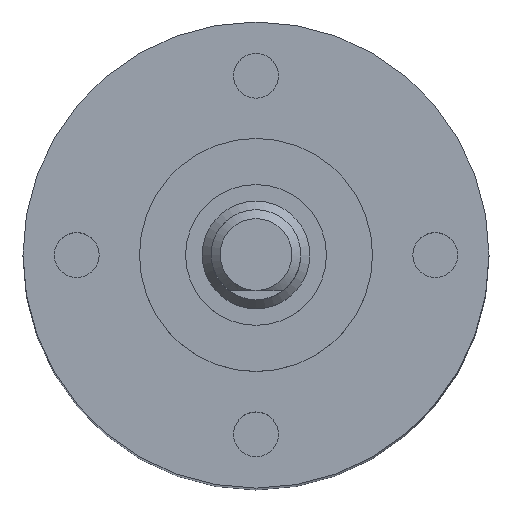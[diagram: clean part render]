
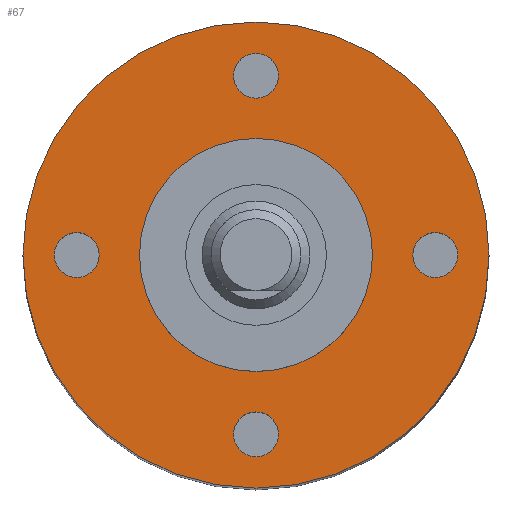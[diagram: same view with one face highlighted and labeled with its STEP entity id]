
A CAD part, top view. The second image highlights one B-rep face of the part: STEP entity #67.
In plain terms, the highlighted planar face has unit normal (0, 0, 1).
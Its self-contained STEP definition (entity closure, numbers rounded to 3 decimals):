
#34=PLANE('',#500);
#67=ADVANCED_FACE('',(#124,#125,#126,#127,#128,#129),#34,.T.);
#124=FACE_BOUND('',#179,.T.);
#125=FACE_BOUND('',#180,.T.);
#126=FACE_BOUND('',#181,.T.);
#127=FACE_BOUND('',#182,.T.);
#128=FACE_BOUND('',#183,.T.);
#129=FACE_BOUND('',#184,.T.);
#179=EDGE_LOOP('',(#248));
#180=EDGE_LOOP('',(#249));
#181=EDGE_LOOP('',(#250));
#182=EDGE_LOOP('',(#251));
#183=EDGE_LOOP('',(#252));
#184=EDGE_LOOP('',(#253));
#248=ORIENTED_EDGE('',*,*,#354,.T.);
#249=ORIENTED_EDGE('',*,*,#355,.T.);
#250=ORIENTED_EDGE('',*,*,#356,.T.);
#251=ORIENTED_EDGE('',*,*,#357,.T.);
#252=ORIENTED_EDGE('',*,*,#358,.F.);
#253=ORIENTED_EDGE('',*,*,#352,.T.);
#316=VERTEX_POINT('',#744);
#318=VERTEX_POINT('',#750);
#319=VERTEX_POINT('',#752);
#320=VERTEX_POINT('',#754);
#321=VERTEX_POINT('',#756);
#322=VERTEX_POINT('',#758);
#352=EDGE_CURVE('',#316,#316,#415,.T.);
#354=EDGE_CURVE('',#318,#318,#417,.T.);
#355=EDGE_CURVE('',#319,#319,#418,.T.);
#356=EDGE_CURVE('',#320,#320,#419,.T.);
#357=EDGE_CURVE('',#321,#321,#420,.T.);
#358=EDGE_CURVE('',#322,#322,#421,.T.);
#415=CIRCLE('',#491,13.);
#417=CIRCLE('',#495,1.25);
#418=CIRCLE('',#496,1.25);
#419=CIRCLE('',#497,1.25);
#420=CIRCLE('',#498,1.25);
#421=CIRCLE('',#499,6.5);
#491=AXIS2_PLACEMENT_3D('',#743,#588,#589);
#495=AXIS2_PLACEMENT_3D('',#749,#596,#597);
#496=AXIS2_PLACEMENT_3D('',#751,#598,#599);
#497=AXIS2_PLACEMENT_3D('',#753,#600,#601);
#498=AXIS2_PLACEMENT_3D('',#755,#602,#603);
#499=AXIS2_PLACEMENT_3D('',#757,#604,#605);
#500=AXIS2_PLACEMENT_3D('',#759,#606,#607);
#588=DIRECTION('',(0.,0.,1.));
#589=DIRECTION('',(1.,0.,0.));
#596=DIRECTION('',(0.,0.,-1.));
#597=DIRECTION('',(0.,-1.,0.));
#598=DIRECTION('',(0.,0.,-1.));
#599=DIRECTION('',(1.,0.,0.));
#600=DIRECTION('',(0.,0.,-1.));
#601=DIRECTION('',(0.,1.,0.));
#602=DIRECTION('',(0.,0.,-1.));
#603=DIRECTION('',(-1.,0.,0.));
#604=DIRECTION('',(0.,0.,1.));
#605=DIRECTION('',(1.,0.,0.));
#606=DIRECTION('',(0.,0.,1.));
#607=DIRECTION('',(1.,0.,0.));
#743=CARTESIAN_POINT('',(0.,0.,60.5));
#744=CARTESIAN_POINT('',(13.,0.,60.5));
#749=CARTESIAN_POINT('',(-10.,0.,60.5));
#750=CARTESIAN_POINT('',(-10.,-1.25,60.5));
#751=CARTESIAN_POINT('',(0.,-10.,60.5));
#752=CARTESIAN_POINT('',(1.25,-10.,60.5));
#753=CARTESIAN_POINT('',(10.,0.,60.5));
#754=CARTESIAN_POINT('',(10.,1.25,60.5));
#755=CARTESIAN_POINT('',(0.,10.,60.5));
#756=CARTESIAN_POINT('',(-1.25,10.,60.5));
#757=CARTESIAN_POINT('',(0.,0.,60.5));
#758=CARTESIAN_POINT('',(6.5,0.,60.5));
#759=CARTESIAN_POINT('',(0.,0.,60.5));
